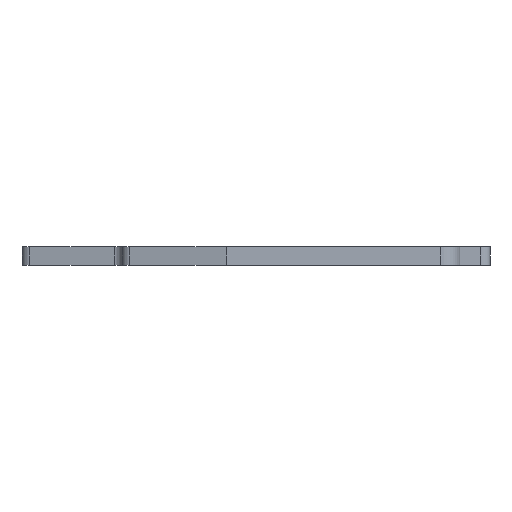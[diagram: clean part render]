
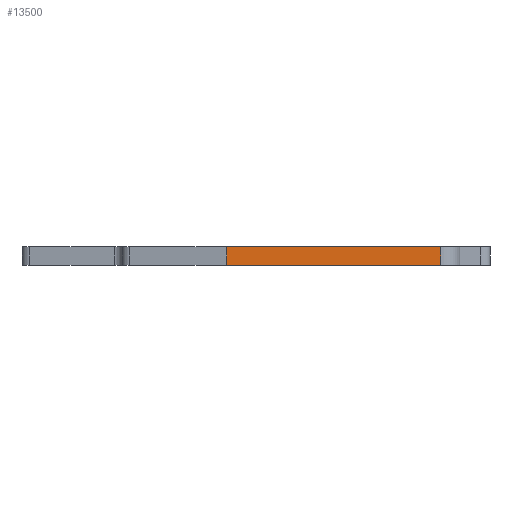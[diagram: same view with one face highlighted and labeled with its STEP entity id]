
A CAD part, left-side view. The second image highlights one B-rep face of the part: STEP entity #13500.
In plain terms, the highlighted planar face has unit normal (-1, 0, 0).
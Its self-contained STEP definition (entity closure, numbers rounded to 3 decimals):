
#1320=CARTESIAN_POINT('',(-61.65,11.684,
1.));
#1330=VERTEX_POINT('',#1320);
#1360=CARTESIAN_POINT('',(-61.65,8.095,1.))
;
#1370=DIRECTION('',(0.,1.,0.));
#1380=VECTOR('',#1370,1.);
#1390=LINE('',#1360,#1380);
#1400=CARTESIAN_POINT('',(-61.65,-11.,1.));
#1410=VERTEX_POINT('',#1400);
#1420=EDGE_CURVE('',#1410,#1330,#1390,.T.);
#6720=CARTESIAN_POINT('',(-61.65,-11.,3.));
#6730=VERTEX_POINT('',#6720);
#6760=CARTESIAN_POINT('',(-61.65,8.095,3.));
#6770=DIRECTION('',(0.,1.,0.));
#6780=VECTOR('',#6770,1.);
#6790=LINE('',#6760,#6780);
#6800=CARTESIAN_POINT('',(-61.65,11.684,3.));
#6810=VERTEX_POINT('',#6800);
#6820=EDGE_CURVE('',#6730,#6810,#6790,.T.);
#13290=CARTESIAN_POINT('',(-61.65,-13.,1.));
#13300=DIRECTION('',(-1.,0.,0.));
#13310=DIRECTION('',(0.,1.,0.));
#13320=AXIS2_PLACEMENT_3D('',#13290,#13300,#13310);
#13330=PLANE('',#13320);
#13340=ORIENTED_EDGE('',*,*,#1420,.F.);
#13350=CARTESIAN_POINT('',(-61.65,11.684,
1.));
#13360=DIRECTION('',(0.,0.,1.));
#13370=VECTOR('',#13360,1.);
#13380=LINE('',#13350,#13370);
#13390=EDGE_CURVE('',#1330,#6810,#13380,.T.);
#13400=ORIENTED_EDGE('',*,*,#13390,.F.);
#13410=ORIENTED_EDGE('',*,*,#6820,.T.);
#13420=CARTESIAN_POINT('',(-61.65,-11.,1.));
#13430=DIRECTION('',(0.,0.,1.));
#13440=VECTOR('',#13430,1.);
#13450=LINE('',#13420,#13440);
#13460=EDGE_CURVE('',#1410,#6730,#13450,.T.);
#13470=ORIENTED_EDGE('',*,*,#13460,.T.);
#13480=EDGE_LOOP('',(#13470,#13410,#13400,#13340));
#13490=FACE_OUTER_BOUND('',#13480,.T.);
#13500=ADVANCED_FACE('',(#13490),#13330,.T.);
